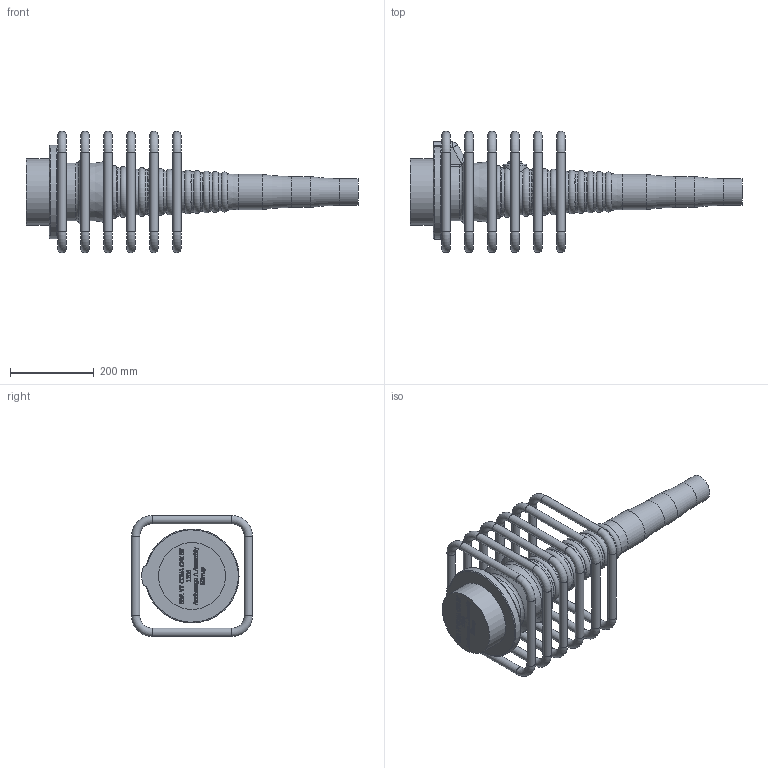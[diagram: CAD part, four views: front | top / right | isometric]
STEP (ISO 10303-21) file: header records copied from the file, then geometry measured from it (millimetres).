
FILE_DESCRIPTION(/* description */ (''),/* implementation_level */ '2;1');
FILE_NAME(/* name */ 'BBR VT CONA CMI BT 1206_Anchorage A Assembly_CS-43,35_Stirrup.stp',/* time_stamp */ '2025-04-28T14:46:05+02:00',/* author */ ('tk'),/* organization */ (''),/* preprocessor_version */ 'ST-DEVELOPER v20',/* originating_system */ 'Autodesk Inventor 2024',/* authorisation */ '');
FILE_SCHEMA (('AUTOMOTIVE_DESIGN { 1 0 10303 214 3 1 1 }'));
Length unit declared in the file: millimetre
Products named in the file (1): BBR VT CONA CMI BT 1206_Anchorage A Assembly_CS-43,35_Stirrup
Bounding box: 794.43 x 290 x 290 mm (x, y, z)
Volume: 9987922.6 mm3; surface area: 761811.9 mm2
Topology: 7 solids, 7 shells, 889 faces, 2377 edges, 1558 vertices
Faces by surface type: plane 384, bspline 352, torus 77, cylinder 45, cone 17, sphere 14
Full cylindrical faces by diameter (mm): 20 x24, 34 x1, 57 x1, 64.013 x1, 74.013 x1, 84.013 x1, 160 x1, 177.282 x1, 178.841 x1
Entity records: 32160 total; most frequent: CARTESIAN_POINT 11113, ORIENTED_EDGE 4754, DIRECTION 3099, EDGE_CURVE 2377, VERTEX_POINT 1558, LINE 1319, VECTOR 1319, EDGE_LOOP 957
